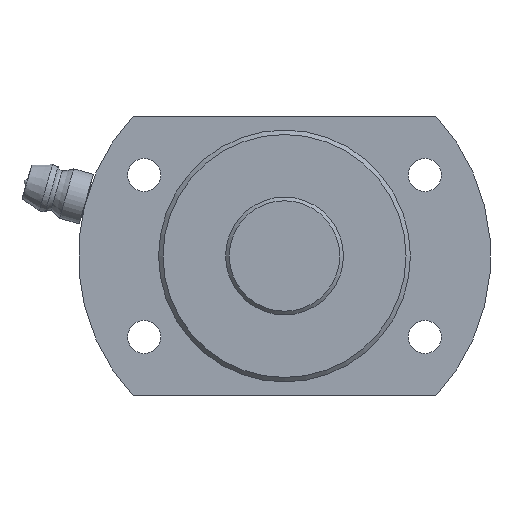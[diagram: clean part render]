
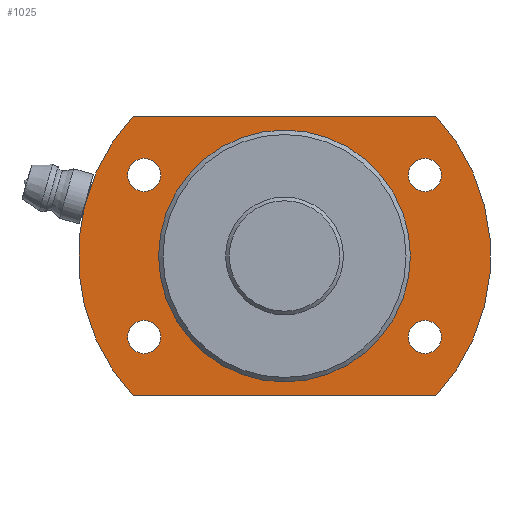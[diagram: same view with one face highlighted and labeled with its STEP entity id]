
A CAD part, left-side view. The second image highlights one B-rep face of the part: STEP entity #1025.
In plain terms, the highlighted planar face has unit normal (-1, 0, 0).
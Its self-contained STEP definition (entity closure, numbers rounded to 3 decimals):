
#551=CARTESIAN_POINT('',(239.895,0.,-17.1));
#552=VERTEX_POINT('',#551);
#553=CARTESIAN_POINT('',(239.895,0.0,0.0));
#554=DIRECTION('',(-1.0,0.0,0.0));
#555=DIRECTION('',(0.0,-1.0,0.0));
#556=AXIS2_PLACEMENT_3D('',#553,#554,#555);
#557=CIRCLE('',#556,17.1);
#558=EDGE_CURVE('',#552,#552,#557,.T.);
#692=CARTESIAN_POINT('',(239.895,-21.303,-11.));
#693=VERTEX_POINT('',#692);
#694=CARTESIAN_POINT('',(239.895,-19.053,-11.));
#695=DIRECTION('',(1.0,0.0,0.0));
#696=DIRECTION('',(0.0,1.0,0.0));
#697=AXIS2_PLACEMENT_3D('',#694,#695,#696);
#698=CIRCLE('',#697,2.25);
#699=EDGE_CURVE('',#693,#693,#698,.T.);
#741=CARTESIAN_POINT('',(239.895,16.803,11.));
#742=VERTEX_POINT('',#741);
#743=CARTESIAN_POINT('',(239.895,19.053,11.));
#744=DIRECTION('',(1.0,0.0,0.0));
#745=DIRECTION('',(0.0,1.0,0.0));
#746=AXIS2_PLACEMENT_3D('',#743,#744,#745);
#747=CIRCLE('',#746,2.25);
#748=EDGE_CURVE('',#742,#742,#747,.T.);
#790=CARTESIAN_POINT('',(239.895,16.803,-11.));
#791=VERTEX_POINT('',#790);
#792=CARTESIAN_POINT('',(239.895,19.053,-11.));
#793=DIRECTION('',(1.0,0.0,0.0));
#794=DIRECTION('',(0.0,1.0,0.0));
#795=AXIS2_PLACEMENT_3D('',#792,#793,#794);
#796=CIRCLE('',#795,2.25);
#797=EDGE_CURVE('',#791,#791,#796,.T.);
#839=CARTESIAN_POINT('',(239.895,-21.303,11.));
#840=VERTEX_POINT('',#839);
#841=CARTESIAN_POINT('',(239.895,-19.053,11.));
#842=DIRECTION('',(1.0,0.0,0.0));
#843=DIRECTION('',(0.0,1.0,0.0));
#844=AXIS2_PLACEMENT_3D('',#841,#842,#843);
#845=CIRCLE('',#844,2.25);
#846=EDGE_CURVE('',#840,#840,#845,.T.);
#867=CARTESIAN_POINT('',(239.895,-20.567,19.0));
#868=VERTEX_POINT('',#867);
#869=CARTESIAN_POINT('',(239.895,-20.567,-19.0));
#870=VERTEX_POINT('',#869);
#871=CARTESIAN_POINT('',(239.895,0.0,0.0));
#872=DIRECTION('',(1.0,0.0,0.0));
#873=DIRECTION('',(0.0,0.0,-1.0));
#874=AXIS2_PLACEMENT_3D('',#871,#872,#873);
#875=CIRCLE('',#874,28.);
#876=EDGE_CURVE('',#868,#870,#875,.T.);
#909=CARTESIAN_POINT('',(239.895,20.567,-19.0));
#910=VERTEX_POINT('',#909);
#911=CARTESIAN_POINT('',(239.895,-20.567,-19.0));
#912=DIRECTION('',(0.0,1.0,0.0));
#913=VECTOR('',#912,41.134);
#914=LINE('',#911,#913);
#915=EDGE_CURVE('',#870,#910,#914,.T.);
#940=CARTESIAN_POINT('',(239.895,20.567,19.0));
#941=VERTEX_POINT('',#940);
#942=CARTESIAN_POINT('',(239.895,0.0,0.0));
#943=DIRECTION('',(1.0,0.0,0.0));
#944=DIRECTION('',(0.0,0.0,-1.0));
#945=AXIS2_PLACEMENT_3D('',#942,#943,#944);
#946=CIRCLE('',#945,28.);
#947=EDGE_CURVE('',#910,#941,#946,.T.);
#982=CARTESIAN_POINT('',(239.895,20.567,19.0));
#983=DIRECTION('',(0.0,-1.0,0.0));
#984=VECTOR('',#983,41.134);
#985=LINE('',#982,#984);
#986=EDGE_CURVE('',#941,#868,#985,.T.);
#999=CARTESIAN_POINT('',(239.895,0.,0.));
#1000=DIRECTION('',(1.0,0.0,0.0));
#1001=DIRECTION('',(0.0,0.0,-1.0));
#1002=AXIS2_PLACEMENT_3D('',#999,#1000,#1001);
#1003=PLANE('',#1002);
#1004=ORIENTED_EDGE('',*,*,#876,.F.);
#1005=ORIENTED_EDGE('',*,*,#986,.F.);
#1006=ORIENTED_EDGE('',*,*,#947,.F.);
#1007=ORIENTED_EDGE('',*,*,#915,.F.);
#1008=EDGE_LOOP('',(#1004,#1005,#1006,#1007));
#1009=FACE_OUTER_BOUND('',#1008,.T.);
#1010=ORIENTED_EDGE('',*,*,#699,.T.);
#1011=EDGE_LOOP('',(#1010));
#1012=FACE_BOUND('',#1011,.T.);
#1013=ORIENTED_EDGE('',*,*,#748,.T.);
#1014=EDGE_LOOP('',(#1013));
#1015=FACE_BOUND('',#1014,.T.);
#1016=ORIENTED_EDGE('',*,*,#797,.T.);
#1017=EDGE_LOOP('',(#1016));
#1018=FACE_BOUND('',#1017,.T.);
#1019=ORIENTED_EDGE('',*,*,#846,.T.);
#1020=EDGE_LOOP('',(#1019));
#1021=FACE_BOUND('',#1020,.T.);
#1022=ORIENTED_EDGE('',*,*,#558,.F.);
#1023=EDGE_LOOP('',(#1022));
#1024=FACE_BOUND('',#1023,.T.);
#1025=ADVANCED_FACE('',(#1009,#1012,#1015,#1018,#1021,#1024),#1003,.F.);
